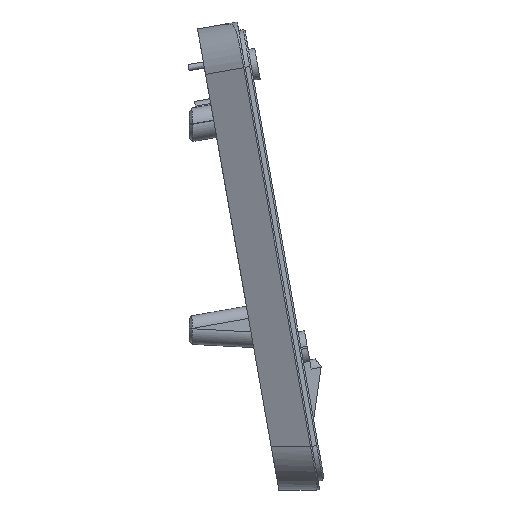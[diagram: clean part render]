
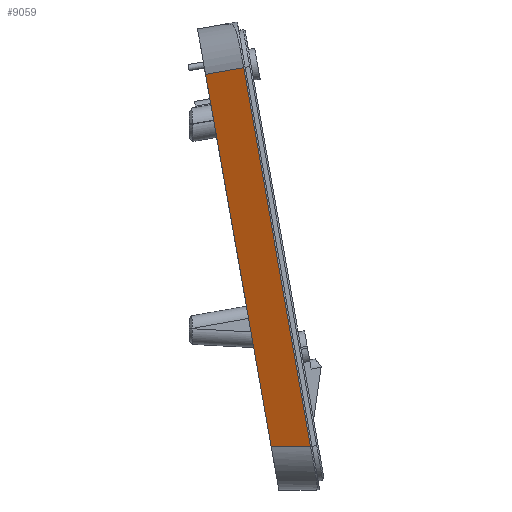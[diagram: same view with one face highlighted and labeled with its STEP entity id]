
A CAD part, left-side view. The second image highlights one B-rep face of the part: STEP entity #9059.
In plain terms, the highlighted planar face has unit normal (-0.923, 0.38, -0.067).
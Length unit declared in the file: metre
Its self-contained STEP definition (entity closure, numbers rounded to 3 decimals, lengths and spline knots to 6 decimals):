
#545=LINE('',#14240,#1352);
#546=LINE('',#14257,#1353);
#547=LINE('',#14259,#1354);
#548=LINE('',#14261,#1355);
#1352=VECTOR('',#11044,1.);
#1353=VECTOR('',#11051,1.);
#1354=VECTOR('',#11052,1.);
#1355=VECTOR('',#11053,1.);
#2712=ORIENTED_EDGE('',*,*,#5222,.T.);
#2713=ORIENTED_EDGE('',*,*,#5226,.F.);
#2714=ORIENTED_EDGE('',*,*,#5227,.F.);
#2715=ORIENTED_EDGE('',*,*,#5228,.T.);
#5222=EDGE_CURVE('',#6479,#6478,#545,.T.);
#5226=EDGE_CURVE('',#6481,#6478,#546,.T.);
#5227=EDGE_CURVE('',#6482,#6481,#547,.T.);
#5228=EDGE_CURVE('',#6482,#6479,#548,.T.);
#6478=VERTEX_POINT('',#14239);
#6479=VERTEX_POINT('',#14241);
#6481=VERTEX_POINT('',#14258);
#6482=VERTEX_POINT('',#14260);
#7587=EDGE_LOOP('',(#2712,#2713,#2714,#2715));
#8200=FACE_BOUND('',#7587,.T.);
#8727=PLANE('',#9692);
#9059=ADVANCED_FACE('',(#8200),#8727,.F.);
#9692=AXIS2_PLACEMENT_3D('',#14256,#11049,#11050);
#11044=DIRECTION('',(-0.381,-0.925,0.));
#11049=DIRECTION('',(0.923,-0.38,0.067));
#11050=DIRECTION('',(0.,-0.174,-0.985));
#11051=DIRECTION('',(0.,-0.174,-0.985));
#11052=DIRECTION('',(-0.386,-0.909,0.16));
#11053=DIRECTION('',(0.,-0.174,-0.985));
#14239=CARTESIAN_POINT('',(-0.153846,0.017254,1.354928));
#14240=CARTESIAN_POINT('',(-0.148656,0.029867,1.354928));
#14241=CARTESIAN_POINT('',(-0.148656,0.029867,1.354928));
#14256=CARTESIAN_POINT('',(-0.132128,-0.022127,0.832294));
#14257=CARTESIAN_POINT('',(-0.153846,0.038677,1.476422));
#14258=CARTESIAN_POINT('',(-0.153846,0.038677,1.476422));
#14259=CARTESIAN_POINT('',(-0.148656,0.05091,1.474265));
#14260=CARTESIAN_POINT('',(-0.148656,0.05091,1.474265));
#14261=CARTESIAN_POINT('',(-0.148656,0.05091,1.474265));
